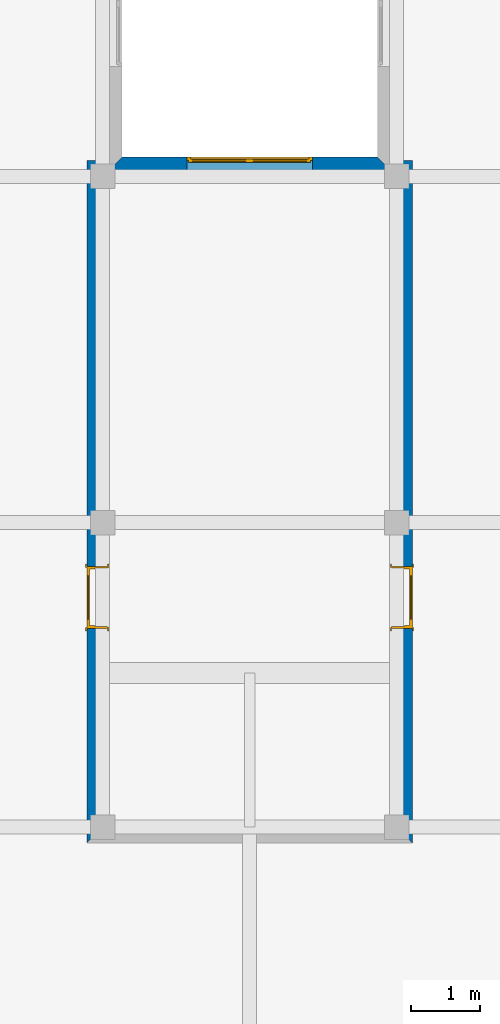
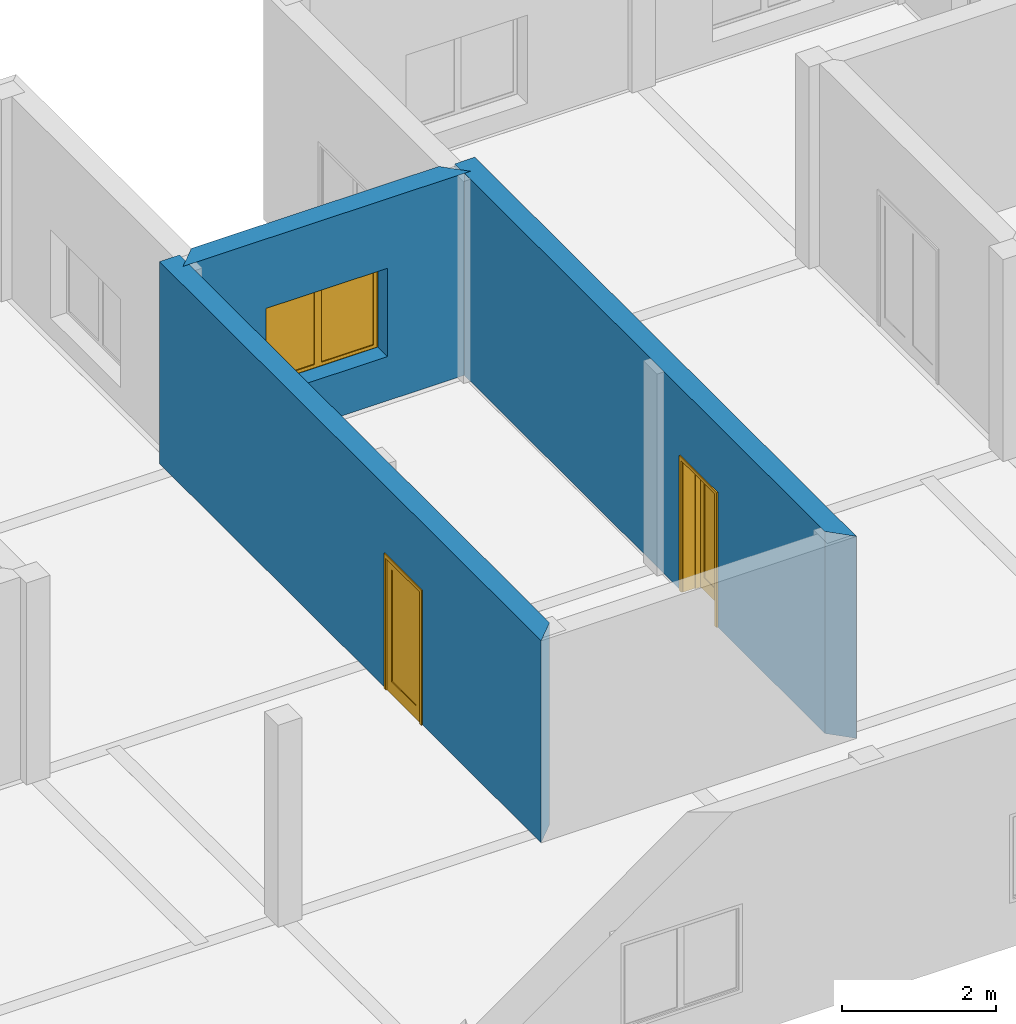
# One storey, part 3 of 6: 3 walls, 2 doors, 1 window, 3 openings.
"""IFC2X3 building model written with IfcOpenShell, lengths in millimetres."""

from ifc_helpers import new_model, entity, si_unit, converted_unit, direction, frame, origin_with_axes, origin_2d_with_axis, place, context, subcontext, project, spatial, polyline, rectangle, outline, extrude, faceted_brep, source, transform, mapped, material, layer, layer_set, layer_usage, type_object, element, fill, save


model = new_model("IFC2X3")

# Units and contexts
model_context = context("Model", 3, precision=1e-05, world=origin_with_axes(), true_north=direction((0.0, 1.0)))
body_context = subcontext(model_context, "Body", "Model", "MODEL_VIEW")
ifc_project = project(units=[si_unit("LENGTHUNIT", "METRE", prefix="MILLI"), si_unit("AREAUNIT", "SQUARE_METRE"), si_unit("VOLUMEUNIT", "CUBIC_METRE"), converted_unit("PLANEANGLEUNIT", "DEGREE", entity("IfcPlaneAngleMeasure", 0.017453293), si_unit("PLANEANGLEUNIT", "RADIAN"), dimensions=[0, 0, 0, 0, 0, 0, 0]), si_unit("SOLIDANGLEUNIT", "STERADIAN"), si_unit("MASSUNIT", "GRAM"), si_unit("TIMEUNIT", "SECOND"), si_unit("THERMODYNAMICTEMPERATUREUNIT", "DEGREE_CELSIUS"), si_unit("LUMINOUSINTENSITYUNIT", "LUMEN")], contexts=[model_context])

# Site, building, storey
site_placement = place(None, origin_with_axes())
site = spatial("IfcSite", under=ifc_project, at=site_placement, Name="Sitio", CompositionType="ELEMENT")
building_placement = place(site_placement, origin_with_axes())
building = spatial("IfcBuilding", under=site, at=building_placement, Name="Ejemplo_StruBIM", CompositionType="ELEMENT")
storey_placement = place(building_placement, frame((0.0, 0.0, 3200.4), z_axis=(0.0, 0.0, 1.0), x_axis=(1.0, 0.0, 0.0)))
storey = spatial("IfcBuildingStorey", under=building, at=storey_placement, Name="First floor", CompositionType="ELEMENT", Elevation=3200.4)

# Wall, opening, window
ifc_material_1 = material(Name="Bloque mampostería")
ifc_layer = layer(ifc_material_1, 300.0, ventilated="UNKNOWN")
ifc_layer_set = layer_set([ifc_layer], Name="Bloque mampostería 300")
ifc_layer_usage_1 = layer_usage(ifc_layer_set, "AXIS2", "POSITIVE", 0.0)
wall_type = type_object("IfcWallType", Name="Bloque mampostería 11 3/4\"", PredefinedType="NOTDEFINED")
wall_1_placement = place(storey_placement, frame((13131.8, 14300.2, 0.0), z_axis=(0.0, 0.0, 1.0), x_axis=(-1.0, 0.0, 0.0)))
wall_1 = element("IfcWallStandardCase", 1, at=wall_1_placement, inside=storey, type_object=wall_type, material=ifc_layer_usage_1, Name="Muro-008", context=body_context, shape_type="SweptSolid", body=[
    extrude(outline(polyline([(0.0, 0.0), (3708.4, 0.0), (4008.4, 300.0), (-300.0, 300.0), (0.0, 0.0)])), origin_with_axes(), (0.0, 0.0, 1.0), 3200.4),
])
opening_1_placement = place(wall_1_placement, frame((1854.2, 0.0, 700.0), z_axis=(0.0, 0.0, 1.0), x_axis=(1.0, 0.0, 0.0)))
opening_1 = element("IfcOpeningElement", 2, at=opening_1_placement, cuts=wall_1, Name="V10", context=body_context, shape_type="SweptSolid", body=[
    extrude(rectangle(XDim=1820.0, YDim=1400.0, at=origin_2d_with_axis()), frame((0.0, 300.0, 700.0), z_axis=(0.0, -1.0, 0.0), x_axis=(1.0, 0.0, 0.0)), (0.0, 0.0, 1.0), 300.0),
])
ifc_material_2 = material(Name="Fondo")
window_style = type_object("IfcWindowStyle", Name="Ventana Doble Hoja 16", ConstructionType="NOTDEFINED", OperationType="DOUBLE_PANEL_HORIZONTAL", ParameterTakesPrecedence=False, Sizeable=False)
shared_shape_1 = source(origin_with_axes(), body_context, "Body", "Brep", [
    faceted_brep([(-885.0, -50.0, 1350.0), (-885.0, -25.0, 1350.0), (-860.0, -25.0, 1350.0), (-860.0, 0.0, 1350.0), (-910.0, 0.0, 1350.0), (-910.0, -50.0, 1350.0), (-885.0, -50.0, 50.0), (-885.0, -25.0, 50.0), (-860.0, -25.0, 50.0), (-860.0, 0.0, 50.0), (-910.0, 0.0, 50.0), (-910.0, -50.0, 50.0)], [[[0, 1, 2, 3, 4, 5]], [[1, 0, 6, 7]], [[8, 2, 1, 7]], [[2, 8, 9, 3]], [[4, 3, 9, 10]], [[5, 4, 10, 11]], [[6, 0, 5, 11]], [[7, 6, 11, 10, 9, 8]]]),
    faceted_brep([(860.0, -25.0, 1350.0), (885.0, -25.0, 1350.0), (885.0, -50.0, 1350.0), (910.0, -50.0, 1350.0), (910.0, 0.0, 1350.0), (860.0, 0.0, 1350.0), (860.0, -25.0, 50.0), (885.0, -25.0, 50.0), (885.0, -50.0, 50.0), (910.0, -50.0, 50.0), (910.0, 0.0, 50.0), (860.0, 0.0, 50.0)], [[[0, 1, 2, 3, 4, 5]], [[1, 0, 6, 7]], [[8, 2, 1, 7]], [[2, 8, 9, 3]], [[9, 10, 4, 3]], [[10, 11, 5, 4]], [[6, 0, 5, 11]], [[7, 6, 11, 10, 9, 8]]]),
    faceted_brep([(860.0, -25.0, 50.0), (885.0, -25.0, 50.0), (885.0, -50.0, 50.0), (910.0, -50.0, 50.0), (910.0, 0.0, 50.0), (860.0, 0.0, 50.0), (-860.0, -25.0, 50.0), (-885.0, -25.0, 50.0), (-885.0, -25.0, 25.0), (885.0, -25.0, 25.0), (885.0, -50.0, 25.0), (-885.0, -50.0, 25.0), (-885.0, -50.0, 50.0), (-910.0, -50.0, 50.0), (-910.0, -50.0, 0.0), (910.0, -50.0, 0.0), (910.0, 0.0, 0.0), (-910.0, 0.0, 50.0), (-860.0, 0.0, 50.0), (-910.0, 0.0, 0.0)], [[[0, 1, 2, 3, 4, 5]], [[1, 0, 6, 7, 8, 9]], [[10, 2, 1, 9]], [[11, 12, 13, 14, 15, 3, 2, 10]], [[15, 16, 4, 3]], [[17, 18, 5, 4, 16, 19]], [[6, 0, 5, 18]], [[7, 6, 18, 17, 13, 12]], [[7, 12, 11, 8]], [[11, 10, 9, 8]], [[13, 17, 19, 14]], [[14, 19, 16, 15]]]),
    faceted_brep([(-885.0, -50.0, 1350.0), (-885.0, -50.0, 1375.0), (885.0, -50.0, 1375.0), (885.0, -50.0, 1350.0), (910.0, -50.0, 1350.0), (910.0, -50.0, 1400.0), (-910.0, -50.0, 1400.0), (-910.0, -50.0, 1350.0), (-885.0, -25.0, 1350.0), (-885.0, -25.0, 1375.0), (885.0, -25.0, 1375.0), (885.0, -25.0, 1350.0), (860.0, -25.0, 1350.0), (860.0, 0.0, 1350.0), (910.0, 0.0, 1350.0), (910.0, 0.0, 1400.0), (-910.0, 0.0, 1400.0), (-910.0, 0.0, 1350.0), (-860.0, 0.0, 1350.0), (-860.0, -25.0, 1350.0)], [[[0, 1, 2, 3, 4, 5, 6, 7]], [[1, 0, 8, 9]], [[2, 1, 9, 10]], [[3, 2, 10, 11]], [[11, 12, 13, 14, 4, 3]], [[4, 14, 15, 5]], [[5, 15, 16, 6]], [[6, 16, 17, 7]], [[8, 0, 7, 17, 18, 19]], [[12, 11, 10, 9, 8, 19]], [[12, 19, 18, 13]], [[14, 13, 18, 17, 16, 15]]]),
    faceted_brep([(-835.0, -25.0, 1325.0), (-885.0, -25.0, 1325.0), (-885.0, -75.0, 1325.0), (-835.0, -75.0, 1325.0), (-835.0, -25.0, 75.0), (-885.0, -25.0, 75.0), (-885.0, -75.0, 75.0), (-835.0, -75.0, 75.0)], [[[0, 1, 2, 3]], [[0, 4, 5, 1]], [[1, 5, 6, 2]], [[3, 2, 6, 7]], [[4, 0, 3, 7]], [[5, 4, 7, 6]]]),
    faceted_brep([(-50.0, -25.0, 75.0), (0.0, -25.0, 75.0), (0.0, -75.0, 75.0), (-50.0, -75.0, 75.0), (-50.0, -25.0, 1325.0), (0.0, -25.0, 1325.0), (0.0, -75.0, 1325.0), (-50.0, -75.0, 1325.0)], [[[0, 1, 2, 3]], [[0, 4, 5, 1]], [[1, 5, 6, 2]], [[3, 2, 6, 7]], [[4, 0, 3, 7]], [[5, 4, 7, 6]]]),
    faceted_brep([(0.0, -25.0, 25.0), (0.0, -25.0, 75.0), (0.0, -75.0, 75.0), (0.0, -75.0, 25.0), (-885.0, -25.0, 25.0), (-885.0, -25.0, 75.0), (-835.0, -25.0, 75.0), (-50.0, -25.0, 75.0), (-50.0, -75.0, 75.0), (-835.0, -75.0, 75.0), (-885.0, -75.0, 75.0), (-885.0, -75.0, 25.0)], [[[0, 1, 2, 3]], [[0, 4, 5, 6, 7, 1]], [[1, 7, 8, 2]], [[3, 2, 8, 9, 10, 11]], [[4, 0, 3, 11]], [[5, 4, 11, 10]], [[6, 5, 10, 9]], [[7, 6, 9, 8]]]),
    faceted_brep([(-885.0, -25.0, 1375.0), (-885.0, -25.0, 1325.0), (-885.0, -75.0, 1325.0), (-885.0, -75.0, 1375.0), (0.0, -25.0, 1375.0), (0.0, -25.0, 1325.0), (-50.0, -25.0, 1325.0), (-835.0, -25.0, 1325.0), (-835.0, -75.0, 1325.0), (-50.0, -75.0, 1325.0), (0.0, -75.0, 1325.0), (0.0, -75.0, 1375.0)], [[[0, 1, 2, 3]], [[0, 4, 5, 6, 7, 1]], [[1, 7, 8, 2]], [[3, 2, 8, 9, 10, 11]], [[4, 0, 3, 11]], [[5, 4, 11, 10]], [[6, 5, 10, 9]], [[7, 6, 9, 8]]]),
    faceted_brep([(-835.0, -40.0, 75.0), (-50.0, -40.0, 75.0), (-50.0, -60.0, 75.0), (-835.0, -60.0, 75.0), (-835.0, -40.0, 1325.0), (-50.0, -40.0, 1325.0), (-50.0, -60.0, 1325.0), (-835.0, -60.0, 1325.0)], [[[0, 1, 2, 3]], [[0, 4, 5, 1]], [[1, 5, 6, 2]], [[3, 2, 6, 7]], [[4, 0, 3, 7]], [[5, 4, 7, 6]]]),
    faceted_brep([(50.0, -25.0, 1325.0), (0.0, -25.0, 1325.0), (0.0, -75.0, 1325.0), (50.0, -75.0, 1325.0), (50.0, -25.0, 75.0), (0.0, -25.0, 75.0), (0.0, -75.0, 75.0), (50.0, -75.0, 75.0)], [[[0, 1, 2, 3]], [[0, 4, 5, 1]], [[1, 5, 6, 2]], [[3, 2, 6, 7]], [[4, 0, 3, 7]], [[5, 4, 7, 6]]]),
    faceted_brep([(835.0, -25.0, 75.0), (885.0, -25.0, 75.0), (885.0, -75.0, 75.0), (835.0, -75.0, 75.0), (835.0, -25.0, 1325.0), (885.0, -25.0, 1325.0), (885.0, -75.0, 1325.0), (835.0, -75.0, 1325.0)], [[[0, 1, 2, 3]], [[0, 4, 5, 1]], [[1, 5, 6, 2]], [[3, 2, 6, 7]], [[4, 0, 3, 7]], [[5, 4, 7, 6]]]),
    faceted_brep([(885.0, -25.0, 25.0), (885.0, -25.0, 75.0), (885.0, -75.0, 75.0), (885.0, -75.0, 25.0), (0.0, -25.0, 25.0), (0.0, -25.0, 75.0), (50.0, -25.0, 75.0), (835.0, -25.0, 75.0), (835.0, -75.0, 75.0), (50.0, -75.0, 75.0), (0.0, -75.0, 75.0), (0.0, -75.0, 25.0)], [[[0, 1, 2, 3]], [[0, 4, 5, 6, 7, 1]], [[1, 7, 8, 2]], [[3, 2, 8, 9, 10, 11]], [[4, 0, 3, 11]], [[5, 4, 11, 10]], [[6, 5, 10, 9]], [[7, 6, 9, 8]]]),
    faceted_brep([(0.0, -25.0, 1375.0), (0.0, -25.0, 1325.0), (0.0, -75.0, 1325.0), (0.0, -75.0, 1375.0), (885.0, -25.0, 1375.0), (885.0, -25.0, 1325.0), (835.0, -25.0, 1325.0), (50.0, -25.0, 1325.0), (50.0, -75.0, 1325.0), (835.0, -75.0, 1325.0), (885.0, -75.0, 1325.0), (885.0, -75.0, 1375.0)], [[[0, 1, 2, 3]], [[0, 4, 5, 6, 7, 1]], [[1, 7, 8, 2]], [[3, 2, 8, 9, 10, 11]], [[4, 0, 3, 11]], [[5, 4, 11, 10]], [[6, 5, 10, 9]], [[7, 6, 9, 8]]]),
    faceted_brep([(50.0, -40.0, 75.0), (835.0, -40.0, 75.0), (835.0, -60.0, 75.0), (50.0, -60.0, 75.0), (50.0, -40.0, 1325.0), (835.0, -40.0, 1325.0), (835.0, -60.0, 1325.0), (50.0, -60.0, 1325.0)], [[[0, 1, 2, 3]], [[0, 4, 5, 1]], [[1, 5, 6, 2]], [[3, 2, 6, 7]], [[4, 0, 3, 7]], [[5, 4, 7, 6]]]),
])
window_placement = place(opening_1_placement, frame((910.0, 0.0, 0.0), z_axis=(0.0, 0.0, 1.0), x_axis=(-1.0, 0.0, 0.0)))
window = element("IfcWindow", 3, at=window_placement, inside=storey, type_object=window_style, material=ifc_material_2, Name="V10", OverallHeight=1400.0, OverallWidth=1820.0, context=body_context, shape_type="MappedRepresentation", body=[
    mapped(shared_shape_1, transform((910.0, 0.0, 0.0))),
])
fill(opening_1, window)

# Wall, opening, door
ifc_layer_usage_2 = layer_usage(ifc_layer_set, "AXIS2", "POSITIVE", 0.0)
wall_2_placement = place(storey_placement, frame((13639.8, 4343.4, 0.0), z_axis=(0.0, 0.0, 1.0), x_axis=(0.0, 1.0, 0.0)))
wall_2 = element("IfcWallStandardCase", 4, at=wall_2_placement, inside=storey, type_object=wall_type, material=ifc_layer_usage_2, Name="Muro-009", context=body_context, shape_type="SweptSolid", body=[
    extrude(outline(polyline([(0.0, 0.0), (9906.0, 0.0), (9906.0, 300.0), (300.0, 300.0), (0.0, 0.0)])), origin_with_axes(), (0.0, 0.0, 1.0), 3200.4),
])
opening_2_placement = place(wall_2_placement, frame((3563.2, 0.0, 0.0), z_axis=(0.0, 0.0, 1.0), x_axis=(1.0, 0.0, 0.0)))
opening_2 = element("IfcOpeningElement", 5, at=opening_2_placement, cuts=wall_2, Name="P02", context=body_context, shape_type="SweptSolid", body=[
    extrude(rectangle(XDim=900.0, YDim=2100.0, at=origin_2d_with_axis()), frame((0.0, 300.0, 1050.0), z_axis=(0.0, 1.0, 0.0), x_axis=(1.0, 0.0, 0.0)), (0.0, 0.0, -1.0), 300.0),
    extrude(rectangle(XDim=974.0, YDim=2137.0, at=origin_2d_with_axis()), frame((0.0, 300.0, 1068.5), z_axis=(0.0, 1.0, 0.0), x_axis=(1.0, 0.0, 0.0)), (0.0, 0.0, 1.0), 300.0),
    extrude(rectangle(XDim=974.0, YDim=2137.0, at=origin_2d_with_axis()), frame((0.0, 0.0, 1068.5), z_axis=(0.0, -1.0, 0.0), x_axis=(1.0, 0.0, 0.0)), (0.0, 0.0, 1.0), 300.0),
])
door_style_1 = type_object("IfcDoorStyle", Name="Puerta 16", ConstructionType="NOTDEFINED", OperationType="SINGLE_SWING_LEFT", ParameterTakesPrecedence=False, Sizeable=False)
shared_shape_2 = source(origin_with_axes(), body_context, "Body", "Brep", [
    faceted_brep([(450.0, -115.0, 0.0), (450.0, -300.0, 0.0), (425.0, -300.0, 0.0), (425.0, -115.0, 0.0), (450.0, -115.0, 2100.0), (450.0, -300.0, 2100.0), (425.0, -300.0, 2075.0), (425.0, -115.0, 2075.0)], [[[0, 1, 2, 3]], [[4, 5, 1, 0]], [[1, 5, 6, 2]], [[3, 2, 6, 7]], [[0, 3, 7, 4]], [[7, 6, 5, 4]]]),
    faceted_brep([(-450.0, -115.0, 2100.0), (-450.0, -300.0, 2100.0), (-425.0, -300.0, 2075.0), (-425.0, -115.0, 2075.0), (-450.0, -115.0, 0.0), (-450.0, -300.0, 0.0), (-425.0, -300.0, 0.0), (-425.0, -115.0, 0.0)], [[[0, 1, 2, 3]], [[4, 5, 1, 0]], [[1, 5, 6, 2]], [[3, 2, 6, 7]], [[0, 3, 7, 4]], [[7, 6, 5, 4]]]),
    faceted_brep([(425.0, -115.0, 2075.0), (425.0, -300.0, 2075.0), (-425.0, -300.0, 2075.0), (-425.0, -115.0, 2075.0), (450.0, -115.0, 2100.0), (450.0, -300.0, 2100.0), (-450.0, -300.0, 2100.0), (-450.0, -115.0, 2100.0)], [[[0, 1, 2, 3]], [[4, 5, 1, 0]], [[1, 5, 6, 2]], [[3, 2, 6, 7]], [[0, 3, 7, 4]], [[7, 6, 5, 4]]]),
    faceted_brep([(487.0, -319.0, 0.0), (437.0, -319.0, 0.0), (437.0, -300.0, 0.0), (487.0, -300.0, 0.0), (487.0, -319.0, 2137.0), (437.0, -319.0, 2087.0), (437.0, -300.0, 2087.0), (487.0, -300.0, 2137.0)], [[[0, 1, 2, 3]], [[0, 4, 5, 1]], [[1, 5, 6, 2]], [[3, 2, 6, 7]], [[4, 0, 3, 7]], [[5, 4, 7, 6]]]),
    faceted_brep([(-487.0, -319.0, 2137.0), (-437.0, -319.0, 2087.0), (-437.0, -300.0, 2087.0), (-487.0, -300.0, 2137.0), (-487.0, -319.0, 0.0), (-437.0, -319.0, 0.0), (-437.0, -300.0, 0.0), (-487.0, -300.0, 0.0)], [[[0, 1, 2, 3]], [[0, 4, 5, 1]], [[1, 5, 6, 2]], [[3, 2, 6, 7]], [[4, 0, 3, 7]], [[5, 4, 7, 6]]]),
    faceted_brep([(487.0, -319.0, 2137.0), (437.0, -319.0, 2087.0), (437.0, -300.0, 2087.0), (487.0, -300.0, 2137.0), (-487.0, -319.0, 2137.0), (-437.0, -319.0, 2087.0), (-437.0, -300.0, 2087.0), (-487.0, -300.0, 2137.0)], [[[0, 1, 2, 3]], [[0, 4, 5, 1]], [[1, 5, 6, 2]], [[3, 2, 6, 7]], [[4, 0, 3, 7]], [[5, 4, 7, 6]]]),
    faceted_brep([(487.0, 19.0, 0.0), (487.0, 0.0, 0.0), (437.0, 0.0, 0.0), (437.0, 19.0, 0.0), (487.0, 19.0, 2137.0), (487.0, 0.0, 2137.0), (437.0, 0.0, 2087.0), (437.0, 19.0, 2087.0)], [[[0, 1, 2, 3]], [[4, 5, 1, 0]], [[1, 5, 6, 2]], [[3, 2, 6, 7]], [[0, 3, 7, 4]], [[7, 6, 5, 4]]]),
    faceted_brep([(-487.0, 19.0, 2137.0), (-487.0, 0.0, 2137.0), (-437.0, 0.0, 2087.0), (-437.0, 19.0, 2087.0), (-487.0, 19.0, 0.0), (-487.0, 0.0, 0.0), (-437.0, 0.0, 0.0), (-437.0, 19.0, 0.0)], [[[0, 1, 2, 3]], [[4, 5, 1, 0]], [[1, 5, 6, 2]], [[3, 2, 6, 7]], [[0, 3, 7, 4]], [[7, 6, 5, 4]]]),
    faceted_brep([(487.0, 19.0, 2137.0), (487.0, 0.0, 2137.0), (437.0, 0.0, 2087.0), (437.0, 19.0, 2087.0), (-487.0, 19.0, 2137.0), (-487.0, 0.0, 2137.0), (-437.0, 0.0, 2087.0), (-437.0, 19.0, 2087.0)], [[[0, 1, 2, 3]], [[4, 5, 1, 0]], [[1, 5, 6, 2]], [[3, 2, 6, 7]], [[0, 3, 7, 4]], [[7, 6, 5, 4]]]),
    faceted_brep([(410.0, -40.0, 0.0), (410.0, -115.0, 0.0), (410.0, -115.0, 2060.0), (410.0, -40.0, 2060.0), (422.0, -40.0, 0.0), (422.0, 2.2351741e-07, 0.0), (450.0, 2.2351741e-07, -3.8951635e-07), (450.0, -115.0, 0.0), (450.0, -115.0, 2060.0), (422.0, -40.0, 2060.0), (450.0, 2.2351741e-07, 2060.0), (422.0, 2.2351741e-07, 2060.0)], [[[0, 1, 2, 3]], [[4, 5, 6, 7, 1, 0]], [[8, 2, 1, 7]], [[9, 3, 2, 8, 10, 11]], [[9, 4, 0, 3]], [[11, 5, 4, 9]], [[11, 10, 6, 5]], [[7, 6, 10, 8]]]),
    faceted_brep([(-422.0, -40.0, 2060.0), (-422.0, 2.2351741e-07, 2060.0), (-450.0, 2.2351741e-07, 2060.0), (-450.0, -115.0, 2060.0), (-410.0, -115.0, 2060.0), (-410.0, -40.0, 2060.0), (-422.0, -40.0, 0.0), (-422.0, 2.2351741e-07, 0.0), (-450.0, 2.2351741e-07, -3.8951635e-07), (-450.0, -115.0, 0.0), (-410.0, -115.0, 0.0), (-410.0, -40.0, 0.0)], [[[0, 1, 2, 3, 4, 5]], [[0, 6, 7, 1]], [[7, 8, 2, 1]], [[3, 2, 8, 9]], [[10, 4, 3, 9]], [[5, 4, 10, 11]], [[5, 11, 6, 0]], [[6, 11, 10, 9, 8, 7]]]),
    faceted_brep([(422.0, 2.2351741e-07, 2072.0), (-422.0, 2.2351741e-07, 2072.0), (-422.0, 2.2351741e-07, 2060.0), (-450.0, 2.2351741e-07, 2060.0), (-450.0, 2.2351741e-07, 2100.0), (450.0, 2.2351741e-07, 2100.0), (450.0, 2.2351741e-07, 2060.0), (422.0, 2.2351741e-07, 2060.0), (422.0, -40.0, 2072.0), (-422.0, -40.0, 2072.0), (-422.0, -40.0, 2060.0), (-410.0, -40.0, 2060.0), (-410.0, -115.0, 2060.0), (-450.0, -115.0, 2060.0), (-450.0, -115.0, 2100.0), (450.0, -115.0, 2100.0), (450.0, -115.0, 2060.0), (422.0, -40.0, 2060.0), (410.0, -115.0, 2060.0), (410.0, -40.0, 2060.0)], [[[0, 1, 2, 3, 4, 5, 6, 7]], [[0, 8, 9, 1]], [[1, 9, 10, 2]], [[10, 11, 12, 13, 3, 2]], [[14, 4, 3, 13]], [[15, 5, 4, 14]], [[16, 6, 5, 15]], [[17, 7, 6, 16, 18, 19]], [[7, 17, 8, 0]], [[10, 9, 8, 17, 19, 11]], [[19, 18, 12, 11]], [[14, 13, 12, 18, 16, 15]]]),
    faceted_brep([(-422.0, 0.0, 200.0), (-322.0, 0.0, 200.0), (-322.0, -40.0, 200.0), (-422.0, -40.0, 200.0), (-422.0, 0.0, 1972.0), (-322.0, 0.0, 1972.0), (-322.0, -40.0, 1972.0), (-422.0, -40.0, 1972.0)], [[[0, 1, 2, 3]], [[0, 4, 5, 1]], [[1, 5, 6, 2]], [[3, 2, 6, 7]], [[4, 0, 3, 7]], [[5, 4, 7, 6]]]),
    faceted_brep([(422.0, 0.0, 200.0), (422.0, 0.0, 1972.0), (422.0, -40.0, 1972.0), (422.0, -40.0, 200.0), (322.0, 0.0, 200.0), (322.0, 0.0, 1972.0), (322.0, -40.0, 1972.0), (322.0, -40.0, 200.0)], [[[0, 1, 2, 3]], [[0, 4, 5, 1]], [[1, 5, 6, 2]], [[3, 2, 6, 7]], [[4, 0, 3, 7]], [[5, 4, 7, 6]]]),
    faceted_brep([(-422.0, 0.0, 0.0), (422.0, 0.0, 0.0), (422.0, -40.0, 0.0), (-422.0, -40.0, 0.0), (-422.0, 0.0, 200.0), (-322.0, 0.0, 200.0), (322.0, 0.0, 200.0), (422.0, 0.0, 200.0), (422.0, -40.0, 200.0), (322.0, -40.0, 200.0), (-322.0, -40.0, 200.0), (-422.0, -40.0, 200.0)], [[[0, 1, 2, 3]], [[0, 4, 5, 6, 7, 1]], [[1, 7, 8, 2]], [[3, 2, 8, 9, 10, 11]], [[4, 0, 3, 11]], [[5, 4, 11, 10]], [[6, 5, 10, 9]], [[7, 6, 9, 8]]]),
    faceted_brep([(-422.0, 0.0, 2072.0), (-422.0, 0.0, 1972.0), (-422.0, -40.0, 1972.0), (-422.0, -40.0, 2072.0), (422.0, 0.0, 2072.0), (422.0, 0.0, 1972.0), (322.0, 0.0, 1972.0), (-322.0, 0.0, 1972.0), (-322.0, -40.0, 1972.0), (322.0, -40.0, 1972.0), (422.0, -40.0, 1972.0), (422.0, -40.0, 2072.0)], [[[0, 1, 2, 3]], [[0, 4, 5, 6, 7, 1]], [[1, 7, 8, 2]], [[3, 2, 8, 9, 10, 11]], [[4, 0, 3, 11]], [[5, 4, 11, 10]], [[6, 5, 10, 9]], [[7, 6, 9, 8]]]),
    faceted_brep([(-322.0, -14.0, 200.0), (322.0, -14.0, 200.0), (322.0, -26.0, 200.0), (-322.0, -26.0, 200.0), (-322.0, -14.0, 1972.0), (322.0, -14.0, 1972.0), (322.0, -26.0, 1972.0), (-322.0, -26.0, 1972.0)], [[[0, 1, 2, 3]], [[0, 4, 5, 1]], [[1, 5, 6, 2]], [[3, 2, 6, 7]], [[4, 0, 3, 7]], [[5, 4, 7, 6]]]),
])
door_1_placement = place(opening_2_placement, frame((450.0, 0.0, 0.0), z_axis=(0.0, 0.0, 1.0), x_axis=(-1.0, 0.0, 0.0)))
door_1 = element("IfcDoor", 6, at=door_1_placement, inside=storey, type_object=door_style_1, material=ifc_material_2, Name="P02", OverallHeight=2100.0, OverallWidth=900.0, context=body_context, shape_type="MappedRepresentation", body=[
    mapped(shared_shape_2, transform((450.0, 0.0, 0.0))),
])
fill(opening_2, door_1)

ifc_layer_usage_3 = layer_usage(ifc_layer_set, "AXIS2", "NEGATIVE", 0.0)
wall_3_placement = place(storey_placement, frame((8915.4, 4343.4, 0.0), z_axis=(0.0, 0.0, 1.0), x_axis=(0.0, 1.0, 0.0)))
wall_3 = element("IfcWallStandardCase", 7, at=wall_3_placement, inside=storey, type_object=wall_type, material=ifc_layer_usage_3, Name="Muro-009", context=body_context, shape_type="SweptSolid", body=[
    extrude(outline(polyline([(300.0, -300.0), (9906.0, -300.0), (9906.0, 0.0), (0.0, 0.0), (300.0, -300.0)])), origin_with_axes(), (0.0, 0.0, 1.0), 3200.4),
])
opening_3_placement = place(wall_3_placement, frame((3563.2, 0.0, 0.0), z_axis=(0.0, 0.0, 1.0), x_axis=(1.0, 0.0, 0.0)))
opening_3 = element("IfcOpeningElement", 8, at=opening_3_placement, cuts=wall_3, Name="P01", context=body_context, shape_type="SweptSolid", body=[
    extrude(rectangle(XDim=900.0, YDim=2100.0, at=origin_2d_with_axis()), frame((0.0, -300.0, 1050.0), z_axis=(0.0, 1.0, 0.0), x_axis=(1.0, 0.0, 0.0)), (0.0, 0.0, 1.0), 300.0),
    extrude(rectangle(XDim=974.0, YDim=2137.0, at=origin_2d_with_axis()), frame((0.0, -300.0, 1068.5), z_axis=(0.0, 1.0, 0.0), x_axis=(1.0, 0.0, 0.0)), (0.0, 0.0, -1.0), 300.0),
    extrude(rectangle(XDim=974.0, YDim=2137.0, at=origin_2d_with_axis()), frame((0.0, 0.0, 1068.5), z_axis=(0.0, -1.0, 0.0), x_axis=(1.0, 0.0, 0.0)), (0.0, 0.0, -1.0), 300.0),
])
door_style_2 = type_object("IfcDoorStyle", Name="Puerta 16", ConstructionType="NOTDEFINED", OperationType="SINGLE_SWING_RIGHT", ParameterTakesPrecedence=False, Sizeable=False)
shared_shape_3 = source(origin_with_axes(), body_context, "Body", "Brep", [
    faceted_brep([(-450.0, -115.0, 0.0), (-425.0, -115.0, 0.0), (-425.0, -300.0, 0.0), (-450.0, -300.0, 0.0), (-450.0, -115.0, 2100.0), (-425.0, -115.0, 2075.0), (-425.0, -300.0, 2075.0), (-450.0, -300.0, 2100.0)], [[[0, 1, 2, 3]], [[0, 4, 5, 1]], [[1, 5, 6, 2]], [[3, 2, 6, 7]], [[4, 0, 3, 7]], [[5, 4, 7, 6]]]),
    faceted_brep([(450.0, -115.0, 2100.0), (425.0, -115.0, 2075.0), (425.0, -300.0, 2075.0), (450.0, -300.0, 2100.0), (450.0, -115.0, 0.0), (425.0, -115.0, 0.0), (425.0, -300.0, 0.0), (450.0, -300.0, 0.0)], [[[0, 1, 2, 3]], [[0, 4, 5, 1]], [[1, 5, 6, 2]], [[3, 2, 6, 7]], [[4, 0, 3, 7]], [[5, 4, 7, 6]]]),
    faceted_brep([(-425.0, -115.0, 2075.0), (425.0, -115.0, 2075.0), (425.0, -300.0, 2075.0), (-425.0, -300.0, 2075.0), (-450.0, -115.0, 2100.0), (450.0, -115.0, 2100.0), (450.0, -300.0, 2100.0), (-450.0, -300.0, 2100.0)], [[[0, 1, 2, 3]], [[0, 4, 5, 1]], [[1, 5, 6, 2]], [[3, 2, 6, 7]], [[4, 0, 3, 7]], [[5, 4, 7, 6]]]),
    faceted_brep([(-487.0, -319.0, 0.0), (-487.0, -300.0, 0.0), (-437.0, -300.0, 0.0), (-437.0, -319.0, 0.0), (-487.0, -319.0, 2137.0), (-487.0, -300.0, 2137.0), (-437.0, -300.0, 2087.0), (-437.0, -319.0, 2087.0)], [[[0, 1, 2, 3]], [[4, 5, 1, 0]], [[1, 5, 6, 2]], [[3, 2, 6, 7]], [[0, 3, 7, 4]], [[7, 6, 5, 4]]]),
    faceted_brep([(487.0, -319.0, 2137.0), (487.0, -300.0, 2137.0), (437.0, -300.0, 2087.0), (437.0, -319.0, 2087.0), (487.0, -319.0, 0.0), (487.0, -300.0, 0.0), (437.0, -300.0, 0.0), (437.0, -319.0, 0.0)], [[[0, 1, 2, 3]], [[4, 5, 1, 0]], [[1, 5, 6, 2]], [[3, 2, 6, 7]], [[0, 3, 7, 4]], [[7, 6, 5, 4]]]),
    faceted_brep([(-487.0, -319.0, 2137.0), (-487.0, -300.0, 2137.0), (-437.0, -300.0, 2087.0), (-437.0, -319.0, 2087.0), (487.0, -319.0, 2137.0), (487.0, -300.0, 2137.0), (437.0, -300.0, 2087.0), (437.0, -319.0, 2087.0)], [[[0, 1, 2, 3]], [[4, 5, 1, 0]], [[1, 5, 6, 2]], [[3, 2, 6, 7]], [[0, 3, 7, 4]], [[7, 6, 5, 4]]]),
    faceted_brep([(-487.0, 19.0, 0.0), (-437.0, 19.0, 0.0), (-437.0, 0.0, 0.0), (-487.0, 0.0, 0.0), (-487.0, 19.0, 2137.0), (-437.0, 19.0, 2087.0), (-437.0, 0.0, 2087.0), (-487.0, 0.0, 2137.0)], [[[0, 1, 2, 3]], [[0, 4, 5, 1]], [[1, 5, 6, 2]], [[3, 2, 6, 7]], [[4, 0, 3, 7]], [[5, 4, 7, 6]]]),
    faceted_brep([(487.0, 19.0, 2137.0), (437.0, 19.0, 2087.0), (437.0, 0.0, 2087.0), (487.0, 0.0, 2137.0), (487.0, 19.0, 0.0), (437.0, 19.0, 0.0), (437.0, 0.0, 0.0), (487.0, 0.0, 0.0)], [[[0, 1, 2, 3]], [[0, 4, 5, 1]], [[1, 5, 6, 2]], [[3, 2, 6, 7]], [[4, 0, 3, 7]], [[5, 4, 7, 6]]]),
    faceted_brep([(-487.0, 19.0, 2137.0), (-437.0, 19.0, 2087.0), (-437.0, 0.0, 2087.0), (-487.0, 0.0, 2137.0), (487.0, 19.0, 2137.0), (437.0, 19.0, 2087.0), (437.0, 0.0, 2087.0), (487.0, 0.0, 2137.0)], [[[0, 1, 2, 3]], [[0, 4, 5, 1]], [[1, 5, 6, 2]], [[3, 2, 6, 7]], [[4, 0, 3, 7]], [[5, 4, 7, 6]]]),
    faceted_brep([(-410.0, -40.0, 0.0), (-410.0, -40.0, 2060.0), (-410.0, -115.0, 2060.0), (-410.0, -115.0, 0.0), (-422.0, -40.0, 2060.0), (-422.0, -40.0, 0.0), (-422.0, 2.2351741e-07, 2060.0), (-450.0, 2.2351741e-07, 2060.0), (-450.0, -115.0, 2060.0), (-450.0, -115.0, 0.0), (-450.0, 2.2351741e-07, -3.8951635e-07), (-422.0, 2.2351741e-07, 0.0)], [[[0, 1, 2, 3]], [[4, 1, 0, 5]], [[4, 6, 7, 8, 2, 1]], [[8, 9, 3, 2]], [[5, 0, 3, 9, 10, 11]], [[6, 4, 5, 11]], [[6, 11, 10, 7]], [[9, 8, 7, 10]]]),
    faceted_brep([(422.0, -40.0, 2060.0), (410.0, -40.0, 2060.0), (410.0, -115.0, 2060.0), (450.0, -115.0, 2060.0), (450.0, 2.2351741e-07, 2060.0), (422.0, 2.2351741e-07, 2060.0), (422.0, -40.0, 0.0), (410.0, -40.0, 0.0), (410.0, -115.0, 0.0), (450.0, -115.0, 0.0), (450.0, 2.2351741e-07, -3.8951635e-07), (422.0, 2.2351741e-07, 0.0)], [[[0, 1, 2, 3, 4, 5]], [[1, 0, 6, 7]], [[1, 7, 8, 2]], [[8, 9, 3, 2]], [[3, 9, 10, 4]], [[11, 5, 4, 10]], [[0, 5, 11, 6]], [[6, 11, 10, 9, 8, 7]]]),
    faceted_brep([(-422.0, 2.2351741e-07, 2072.0), (-422.0, 2.2351741e-07, 2060.0), (-450.0, 2.2351741e-07, 2060.0), (-450.0, 2.2351741e-07, 2100.0), (450.0, 2.2351741e-07, 2100.0), (450.0, 2.2351741e-07, 2060.0), (422.0, 2.2351741e-07, 2060.0), (422.0, 2.2351741e-07, 2072.0), (-422.0, -40.0, 2072.0), (-422.0, -40.0, 2060.0), (-410.0, -40.0, 2060.0), (-410.0, -115.0, 2060.0), (-450.0, -115.0, 2060.0), (-450.0, -115.0, 2100.0), (450.0, -115.0, 2100.0), (450.0, -115.0, 2060.0), (422.0, -40.0, 2060.0), (410.0, -115.0, 2060.0), (410.0, -40.0, 2060.0), (422.0, -40.0, 2072.0)], [[[0, 1, 2, 3, 4, 5, 6, 7]], [[1, 0, 8, 9]], [[9, 10, 11, 12, 2, 1]], [[12, 13, 3, 2]], [[13, 14, 4, 3]], [[14, 15, 5, 4]], [[16, 6, 5, 15, 17, 18]], [[7, 6, 16, 19]], [[0, 7, 19, 8]], [[16, 18, 10, 9, 8, 19]], [[10, 18, 17, 11]], [[14, 13, 12, 11, 17, 15]]]),
    faceted_brep([(422.0, 0.0, 200.0), (422.0, -40.0, 200.0), (322.0, -40.0, 200.0), (322.0, 0.0, 200.0), (422.0, 0.0, 1972.0), (422.0, -40.0, 1972.0), (322.0, -40.0, 1972.0), (322.0, 0.0, 1972.0)], [[[0, 1, 2, 3]], [[4, 5, 1, 0]], [[1, 5, 6, 2]], [[3, 2, 6, 7]], [[0, 3, 7, 4]], [[7, 6, 5, 4]]]),
    faceted_brep([(-422.0, 0.0, 200.0), (-422.0, -40.0, 200.0), (-422.0, -40.0, 1972.0), (-422.0, 0.0, 1972.0), (-322.0, 0.0, 200.0), (-322.0, -40.0, 200.0), (-322.0, -40.0, 1972.0), (-322.0, 0.0, 1972.0)], [[[0, 1, 2, 3]], [[4, 5, 1, 0]], [[1, 5, 6, 2]], [[3, 2, 6, 7]], [[0, 3, 7, 4]], [[7, 6, 5, 4]]]),
    faceted_brep([(422.0, 0.0, 0.0), (422.0, -40.0, 0.0), (-422.0, -40.0, 0.0), (-422.0, 0.0, 0.0), (422.0, 0.0, 200.0), (422.0, -40.0, 200.0), (322.0, -40.0, 200.0), (-322.0, -40.0, 200.0), (-422.0, -40.0, 200.0), (-422.0, 0.0, 200.0), (-322.0, 0.0, 200.0), (322.0, 0.0, 200.0)], [[[0, 1, 2, 3]], [[4, 5, 1, 0]], [[1, 5, 6, 7, 8, 2]], [[3, 2, 8, 9]], [[0, 3, 9, 10, 11, 4]], [[11, 6, 5, 4]], [[10, 7, 6, 11]], [[9, 8, 7, 10]]]),
    faceted_brep([(422.0, 0.0, 2072.0), (422.0, -40.0, 2072.0), (422.0, -40.0, 1972.0), (422.0, 0.0, 1972.0), (-422.0, 0.0, 2072.0), (-422.0, -40.0, 2072.0), (-422.0, -40.0, 1972.0), (-322.0, -40.0, 1972.0), (322.0, -40.0, 1972.0), (322.0, 0.0, 1972.0), (-322.0, 0.0, 1972.0), (-422.0, 0.0, 1972.0)], [[[0, 1, 2, 3]], [[4, 5, 1, 0]], [[1, 5, 6, 7, 8, 2]], [[3, 2, 8, 9]], [[0, 3, 9, 10, 11, 4]], [[11, 6, 5, 4]], [[10, 7, 6, 11]], [[9, 8, 7, 10]]]),
    faceted_brep([(322.0, -14.0, 200.0), (322.0, -26.0, 200.0), (-322.0, -26.0, 200.0), (-322.0, -14.0, 200.0), (322.0, -14.0, 1972.0), (322.0, -26.0, 1972.0), (-322.0, -26.0, 1972.0), (-322.0, -14.0, 1972.0)], [[[0, 1, 2, 3]], [[4, 5, 1, 0]], [[1, 5, 6, 2]], [[3, 2, 6, 7]], [[0, 3, 7, 4]], [[7, 6, 5, 4]]]),
])
door_2_placement = place(opening_3_placement, frame((-450.0, 0.0, 0.0), z_axis=(0.0, 0.0, 1.0), x_axis=(1.0, 0.0, 0.0)))
door_2 = element("IfcDoor", 9, at=door_2_placement, inside=storey, type_object=door_style_2, material=ifc_material_2, Name="P01", OverallHeight=2100.0, OverallWidth=900.0, context=body_context, shape_type="MappedRepresentation", body=[
    mapped(shared_shape_3, transform((450.0, 0.0, 0.0))),
])
fill(opening_3, door_2)

save(model, "model.ifc")
